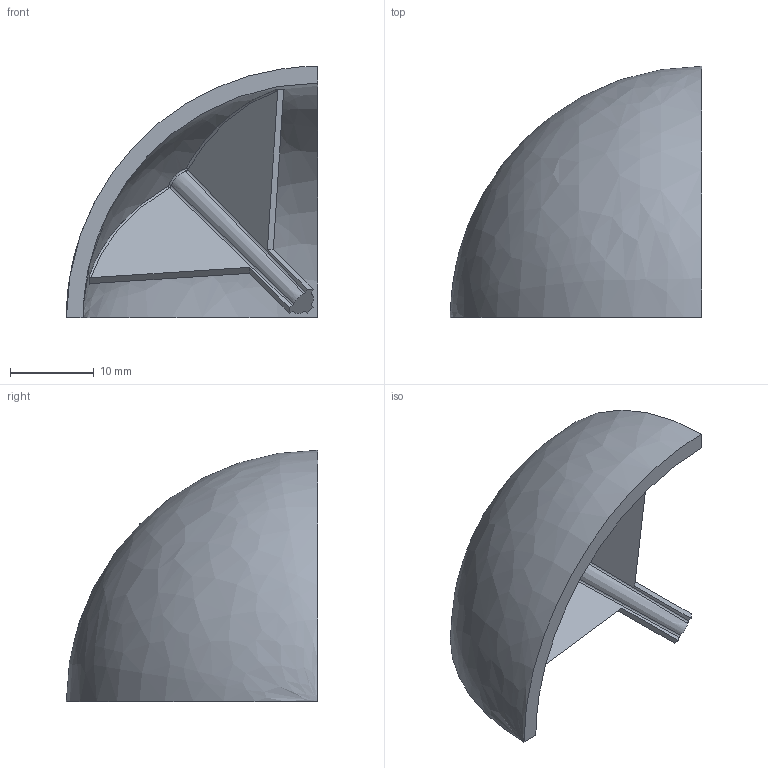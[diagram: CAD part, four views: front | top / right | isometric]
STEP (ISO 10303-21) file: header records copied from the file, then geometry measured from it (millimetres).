
FILE_DESCRIPTION (( 'STEP AP203' ), '1' );
FILE_NAME ('ECR0630-6.STEP', '2024-02-17T07:15:11', ( '' ), ( '' ), 'SwSTEP 2.0', 'SolidWorks 2022', '' );
FILE_SCHEMA (( 'CONFIG_CONTROL_DESIGN' ));
Length unit declared in the file: millimetre
Products named in the file (1): ECR0630-6
Bounding box: 30 x 30 x 30 mm (x, y, z)
Volume: 3375.9 mm3; surface area: 4119.6 mm2
Topology: 1 solids, 1 shells, 43 faces, 110 edges, 68 vertices
Faces by surface type: bspline 23, plane 16, cone 4
Entity records: 2200 total; most frequent: CARTESIAN_POINT 1295, ORIENTED_EDGE 216, EDGE_CURVE 108, DIRECTION 106, VERTEX_POINT 68, B_SPLINE_CURVE_WITH_KNOTS 62, EDGE_LOOP 44, FACE_OUTER_BOUND 43
